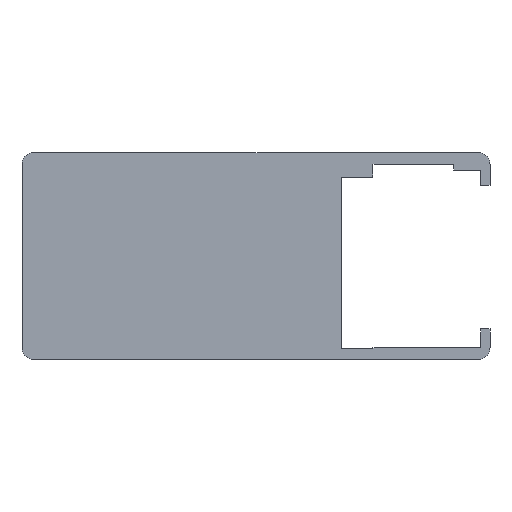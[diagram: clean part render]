
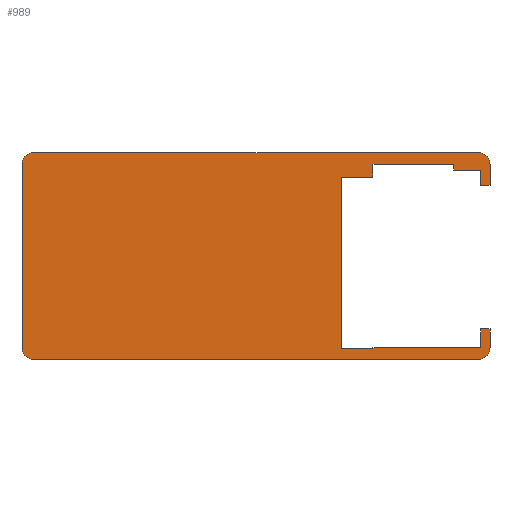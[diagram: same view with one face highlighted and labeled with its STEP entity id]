
A CAD part, left-side view. The second image highlights one B-rep face of the part: STEP entity #989.
In plain terms, the highlighted planar face has unit normal (-1, 0, 0).
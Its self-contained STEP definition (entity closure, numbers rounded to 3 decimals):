
#29=DIRECTION('',(0.,1.,0.));
#30=VECTOR('',#29,37.8);
#31=CARTESIAN_POINT('',(0.,-38.8,8.8));
#32=LINE('',#31,#30);
#33=CARTESIAN_POINT('',(0.,-38.8,7.8));
#34=DIRECTION('',(-1.,0.,0.));
#35=DIRECTION('',(0.,-1.,0.));
#36=AXIS2_PLACEMENT_3D('',#33,#34,#35);
#38=DIRECTION('',(0.,0.,1.));
#39=VECTOR('',#38,1.8);
#40=CARTESIAN_POINT('',(0.,-39.8,6.));
#41=LINE('',#40,#39);
#42=DIRECTION('',(0.,-1.,0.));
#43=VECTOR('',#42,0.8);
#44=CARTESIAN_POINT('',(0.,-39.,6.));
#45=LINE('',#44,#43);
#46=DIRECTION('',(0.,0.,-1.));
#47=VECTOR('',#46,1.3);
#48=CARTESIAN_POINT('',(0.,-39.,7.3));
#49=LINE('',#48,#47);
#50=DIRECTION('',(0.,-1.,0.));
#51=VECTOR('',#50,2.3);
#52=CARTESIAN_POINT('',(0.,-36.7,7.3));
#53=LINE('',#52,#51);
#54=DIRECTION('',(0.,0.,-1.));
#55=VECTOR('',#54,0.5);
#56=CARTESIAN_POINT('',(0.,-36.7,7.8));
#57=LINE('',#56,#55);
#58=DIRECTION('',(0.,-1.,0.));
#59=VECTOR('',#58,6.85);
#60=CARTESIAN_POINT('',(0.,-29.85,7.8));
#61=LINE('',#60,#59);
#62=DIRECTION('',(0.,0.,1.));
#63=VECTOR('',#62,1.1);
#64=CARTESIAN_POINT('',(0.,-29.85,6.7));
#65=LINE('',#64,#63);
#66=DIRECTION('',(0.,-1.,0.));
#67=VECTOR('',#66,2.7);
#68=CARTESIAN_POINT('',(0.,-27.15,6.7));
#69=LINE('',#68,#67);
#70=DIRECTION('',(0.,0.,1.));
#71=VECTOR('',#70,14.6);
#72=CARTESIAN_POINT('',(0.,-27.15,-7.9));
#73=LINE('',#72,#71);
#74=DIRECTION('',(0.,1.,0.));
#75=VECTOR('',#74,2.7);
#76=CARTESIAN_POINT('',(0.,-29.85,-7.9));
#77=LINE('',#76,#75);
#78=DIRECTION('',(0.,0.,-1.));
#79=VECTOR('',#78,0.1);
#80=CARTESIAN_POINT('',(0.,-29.85,-7.8));
#81=LINE('',#80,#79);
#82=DIRECTION('',(0.,1.,0.));
#83=VECTOR('',#82,9.15);
#84=CARTESIAN_POINT('',(0.,-39.,-7.8));
#85=LINE('',#84,#83);
#86=DIRECTION('',(0.,0.,-1.));
#87=VECTOR('',#86,1.6);
#88=CARTESIAN_POINT('',(0.,-39.,-6.2));
#89=LINE('',#88,#87);
#90=DIRECTION('',(0.,1.,0.));
#91=VECTOR('',#90,0.8);
#92=CARTESIAN_POINT('',(0.,-39.8,-6.2));
#93=LINE('',#92,#91);
#94=DIRECTION('',(0.,0.,1.));
#95=VECTOR('',#94,1.6);
#96=CARTESIAN_POINT('',(0.,-39.8,-7.8));
#97=LINE('',#96,#95);
#98=CARTESIAN_POINT('',(0.,-38.8,-7.8));
#99=DIRECTION('',(-1.,0.,0.));
#100=DIRECTION('',(0.,0.,-1.));
#101=AXIS2_PLACEMENT_3D('',#98,#99,#100);
#103=DIRECTION('',(0.,-1.,0.));
#104=VECTOR('',#103,37.8);
#105=CARTESIAN_POINT('',(0.,-1.,-8.8));
#106=LINE('',#105,#104);
#107=CARTESIAN_POINT('',(0.,-1.,-7.8));
#108=DIRECTION('',(-1.,0.,0.));
#109=DIRECTION('',(0.,1.,0.));
#110=AXIS2_PLACEMENT_3D('',#107,#108,#109);
#112=DIRECTION('',(0.,0.,-1.));
#113=VECTOR('',#112,15.6);
#114=CARTESIAN_POINT('',(0.,0.,7.8));
#115=LINE('',#114,#113);
#116=CARTESIAN_POINT('',(0.,-1.,7.8));
#117=DIRECTION('',(-1.,0.,0.));
#118=DIRECTION('',(0.,0.,1.));
#119=AXIS2_PLACEMENT_3D('',#116,#117,#118);
#732=CARTESIAN_POINT('',(0.,-38.8,8.8));
#733=CARTESIAN_POINT('',(0.,-1.,8.8));
#734=VERTEX_POINT('',#732);
#735=VERTEX_POINT('',#733);
#806=CARTESIAN_POINT('',(0.,-1.,-8.8));
#807=CARTESIAN_POINT('',(0.,-38.8,-8.8));
#808=VERTEX_POINT('',#806);
#809=VERTEX_POINT('',#807);
#814=CARTESIAN_POINT('',(0.,-39.8,-7.8));
#815=VERTEX_POINT('',#814);
#818=CARTESIAN_POINT('',(0.,-39.8,-6.2));
#819=VERTEX_POINT('',#818);
#822=CARTESIAN_POINT('',(0.,-39.,-6.2));
#823=VERTEX_POINT('',#822);
#826=CARTESIAN_POINT('',(0.,-39.,-7.8));
#827=VERTEX_POINT('',#826);
#830=CARTESIAN_POINT('',(0.,-29.85,-7.8));
#831=VERTEX_POINT('',#830);
#834=CARTESIAN_POINT('',(0.,-29.85,-7.9));
#835=VERTEX_POINT('',#834);
#838=CARTESIAN_POINT('',(0.,-27.15,-7.9));
#839=VERTEX_POINT('',#838);
#842=CARTESIAN_POINT('',(0.,-27.15,6.7));
#843=VERTEX_POINT('',#842);
#848=CARTESIAN_POINT('',(0.,-29.85,6.7));
#849=VERTEX_POINT('',#848);
#850=CARTESIAN_POINT('',(0.,-29.85,7.8));
#851=VERTEX_POINT('',#850);
#854=CARTESIAN_POINT('',(0.,-36.7,7.8));
#855=VERTEX_POINT('',#854);
#858=CARTESIAN_POINT('',(0.,-36.7,7.3));
#859=VERTEX_POINT('',#858);
#862=CARTESIAN_POINT('',(0.,-39.,7.3));
#863=VERTEX_POINT('',#862);
#866=CARTESIAN_POINT('',(0.,-39.,6.));
#867=VERTEX_POINT('',#866);
#870=CARTESIAN_POINT('',(0.,-39.8,6.));
#871=VERTEX_POINT('',#870);
#874=CARTESIAN_POINT('',(0.,-39.8,7.8));
#875=VERTEX_POINT('',#874);
#878=CARTESIAN_POINT('',(0.,0.,-7.8));
#879=VERTEX_POINT('',#878);
#894=CARTESIAN_POINT('',(0.,0.,7.8));
#895=VERTEX_POINT('',#894);
#939=CARTESIAN_POINT('',(0.,-38.8,7.8));
#940=DIRECTION('',(1.,0.,0.));
#941=DIRECTION('',(0.,0.,-1.));
#942=AXIS2_PLACEMENT_3D('',#939,#940,#941);
#943=PLANE('',#942);
#944=ORIENTED_EDGE('',*,*,#919,.F.);
#946=ORIENTED_EDGE('',*,*,#945,.F.);
#948=ORIENTED_EDGE('',*,*,#947,.F.);
#950=ORIENTED_EDGE('',*,*,#949,.F.);
#952=ORIENTED_EDGE('',*,*,#951,.F.);
#954=ORIENTED_EDGE('',*,*,#953,.F.);
#956=ORIENTED_EDGE('',*,*,#955,.F.);
#958=ORIENTED_EDGE('',*,*,#957,.F.);
#960=ORIENTED_EDGE('',*,*,#959,.F.);
#962=ORIENTED_EDGE('',*,*,#961,.F.);
#964=ORIENTED_EDGE('',*,*,#963,.F.);
#966=ORIENTED_EDGE('',*,*,#965,.F.);
#968=ORIENTED_EDGE('',*,*,#967,.F.);
#970=ORIENTED_EDGE('',*,*,#969,.F.);
#972=ORIENTED_EDGE('',*,*,#971,.F.);
#974=ORIENTED_EDGE('',*,*,#973,.F.);
#976=ORIENTED_EDGE('',*,*,#975,.F.);
#978=ORIENTED_EDGE('',*,*,#977,.F.);
#980=ORIENTED_EDGE('',*,*,#979,.F.);
#982=ORIENTED_EDGE('',*,*,#981,.F.);
#984=ORIENTED_EDGE('',*,*,#983,.F.);
#986=ORIENTED_EDGE('',*,*,#985,.F.);
#987=EDGE_LOOP('',(#944,#946,#948,#950,#952,#954,#956,#958,#960,#962,#964,#966,
#968,#970,#972,#974,#976,#978,#980,#982,#984,#986));
#988=FACE_OUTER_BOUND('',#987,.F.);
#989=ADVANCED_FACE('',(#988),#943,.F.);
#37=CIRCLE('',#36,1.);
#102=CIRCLE('',#101,1.);
#111=CIRCLE('',#110,1.);
#120=CIRCLE('',#119,1.);
#919=EDGE_CURVE('',#734,#735,#32,.T.);
#945=EDGE_CURVE('',#875,#734,#37,.T.);
#947=EDGE_CURVE('',#871,#875,#41,.T.);
#949=EDGE_CURVE('',#867,#871,#45,.T.);
#951=EDGE_CURVE('',#863,#867,#49,.T.);
#953=EDGE_CURVE('',#859,#863,#53,.T.);
#955=EDGE_CURVE('',#855,#859,#57,.T.);
#957=EDGE_CURVE('',#851,#855,#61,.T.);
#959=EDGE_CURVE('',#849,#851,#65,.T.);
#961=EDGE_CURVE('',#843,#849,#69,.T.);
#963=EDGE_CURVE('',#839,#843,#73,.T.);
#965=EDGE_CURVE('',#835,#839,#77,.T.);
#967=EDGE_CURVE('',#831,#835,#81,.T.);
#969=EDGE_CURVE('',#827,#831,#85,.T.);
#971=EDGE_CURVE('',#823,#827,#89,.T.);
#973=EDGE_CURVE('',#819,#823,#93,.T.);
#975=EDGE_CURVE('',#815,#819,#97,.T.);
#977=EDGE_CURVE('',#809,#815,#102,.T.);
#979=EDGE_CURVE('',#808,#809,#106,.T.);
#981=EDGE_CURVE('',#879,#808,#111,.T.);
#983=EDGE_CURVE('',#895,#879,#115,.T.);
#985=EDGE_CURVE('',#735,#895,#120,.T.);
